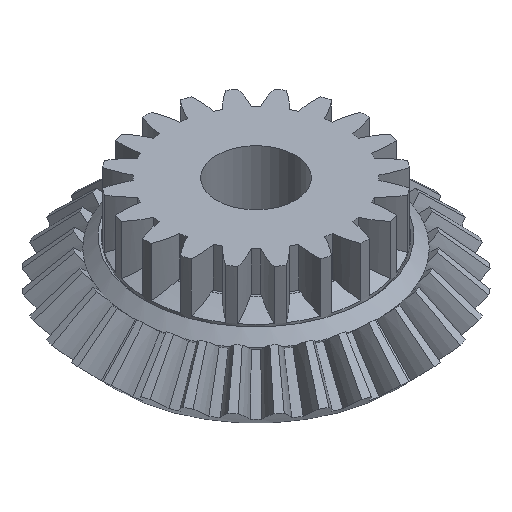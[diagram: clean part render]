
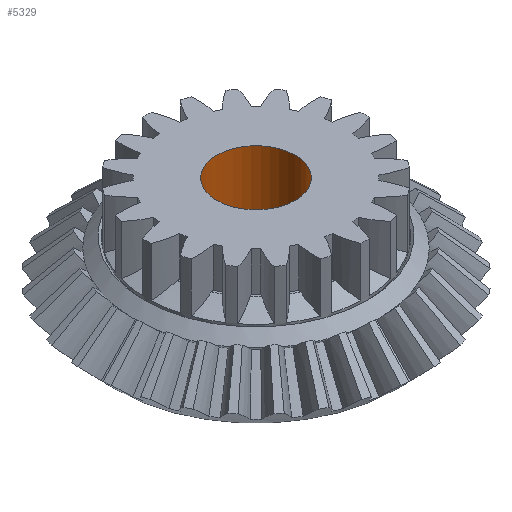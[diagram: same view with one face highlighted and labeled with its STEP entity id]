
A CAD part, isometric view. The second image highlights one B-rep face of the part: STEP entity #5329.
In plain terms, the highlighted cylindrical face has radius 3.95 mm (diameter 7.9 mm), a full revolution.
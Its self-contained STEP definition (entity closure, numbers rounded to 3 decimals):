
#14=CYLINDRICAL_SURFACE('',#5786,3.95);
#720=FACE_OUTER_BOUND('',#1020,.T.);
#1020=EDGE_LOOP('',(#4071,#4072,#4073,#4074));
#1127=LINE('',#11695,#1212);
#1212=VECTOR('',#6742,3.95);
#1396=CIRCLE('',#5623,3.95);
#1493=CIRCLE('',#5787,3.95);
#1873=VERTEX_POINT('',#8566);
#2002=VERTEX_POINT('',#11693);
#2435=EDGE_CURVE('',#1873,#1873,#1396,.T.);
#2726=EDGE_CURVE('',#2002,#2002,#1493,.T.);
#2727=EDGE_CURVE('',#2002,#1873,#1127,.T.);
#4071=ORIENTED_EDGE('',*,*,#2726,.F.);
#4072=ORIENTED_EDGE('',*,*,#2727,.T.);
#4073=ORIENTED_EDGE('',*,*,#2435,.F.);
#4074=ORIENTED_EDGE('',*,*,#2727,.F.);
#5329=ADVANCED_FACE('',(#720),#14,.F.);
#5623=AXIS2_PLACEMENT_3D('',#8567,#6410,#6411);
#5786=AXIS2_PLACEMENT_3D('',#11692,#6738,#6739);
#5787=AXIS2_PLACEMENT_3D('',#11694,#6740,#6741);
#6410=DIRECTION('center_axis',(0.,0.,1.));
#6411=DIRECTION('ref_axis',(1.,0.,0.));
#6738=DIRECTION('center_axis',(0.,0.,-1.));
#6739=DIRECTION('ref_axis',(-1.,0.,0.));
#6740=DIRECTION('center_axis',(0.,0.,-1.));
#6741=DIRECTION('ref_axis',(-1.,0.,0.));
#6742=DIRECTION('',(0.,0.,-1.));
#8566=CARTESIAN_POINT('',(3.95,0.,-18.));
#8567=CARTESIAN_POINT('Origin',(0.,0.,-18.));
#11692=CARTESIAN_POINT('Origin',(0.,0.,-11.5));
#11693=CARTESIAN_POINT('',(3.95,0.,-6.5));
#11694=CARTESIAN_POINT('Origin',(0.,0.,-6.5));
#11695=CARTESIAN_POINT('',(3.95,0.,-11.5));
